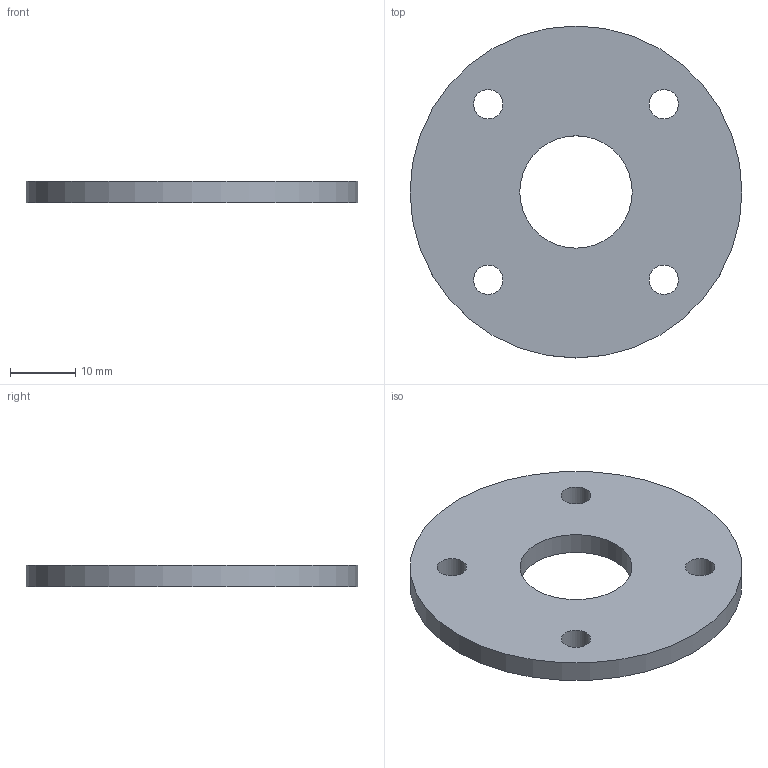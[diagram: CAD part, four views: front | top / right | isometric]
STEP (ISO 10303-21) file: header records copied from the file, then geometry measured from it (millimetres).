
FILE_DESCRIPTION(('FreeCAD Model'),'2;1');
FILE_NAME('Open CASCADE Shape Model','2026-09-19T18:57:27',('FreeCAD'),( 'FreeCAD'),'Open CASCADE STEP processor 7.8','FreeCAD','Unknown');
FILE_SCHEMA(('AUTOMOTIVE_DESIGN { 1 0 10303 214 1 1 1 1 }'));
Length unit declared in the file: millimetre
Products named in the file (1): Open CASCADE STEP translator 7.8 11
Bounding box: 50.8 x 50.8 x 3.3 mm (x, y, z)
Volume: 5711.8 mm3; surface area: 4353.3 mm2
Topology: 1 solids, 1 shells, 8 faces, 18 edges, 12 vertices
Faces by surface type: cylinder 6, plane 2
Full cylindrical faces by diameter (mm): 4.5 x4, 17.2 x1, 50.8 x1
Entity records: 264 total; most frequent: DIRECTION 48, CARTESIAN_POINT 39, ORIENTED_EDGE 36, AXIS2_PLACEMENT_3D 21, FACE_BOUND 18, EDGE_LOOP 18, EDGE_CURVE 18, VERTEX_POINT 12
